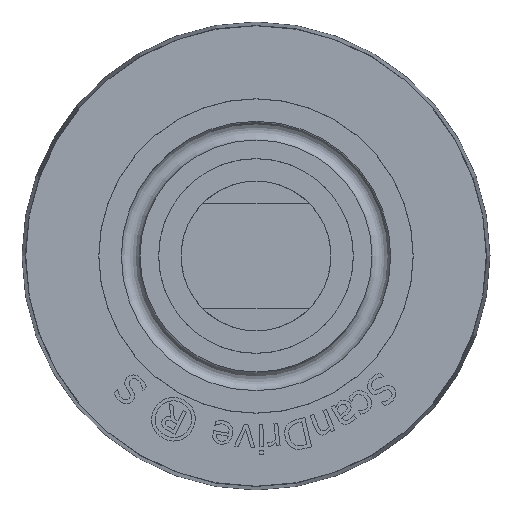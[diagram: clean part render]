
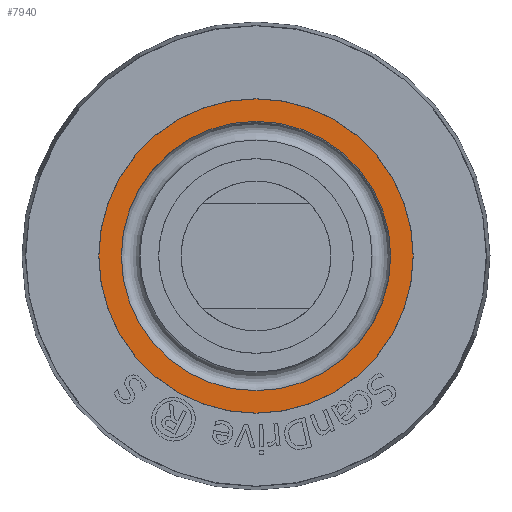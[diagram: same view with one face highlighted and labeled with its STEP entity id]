
A CAD part, left-side view. The second image highlights one B-rep face of the part: STEP entity #7940.
In plain terms, the highlighted planar face has unit normal (-1, 0, 0).
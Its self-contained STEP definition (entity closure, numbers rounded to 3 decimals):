
#60=CIRCLE('',#8324,17.99);
#61=CIRCLE('',#8326,20.99);
#151=FACE_BOUND('',#1490,.T.);
#1002=FACE_OUTER_BOUND('',#1489,.T.);
#1489=EDGE_LOOP('',(#6306));
#1490=EDGE_LOOP('',(#6307));
#3608=VERTEX_POINT('',#12298);
#3609=VERTEX_POINT('',#12301);
#4583=EDGE_CURVE('',#3608,#3608,#60,.T.);
#4584=EDGE_CURVE('',#3609,#3609,#61,.T.);
#6306=ORIENTED_EDGE('',*,*,#4584,.T.);
#6307=ORIENTED_EDGE('',*,*,#4583,.F.);
#7598=PLANE('',#8325);
#7940=ADVANCED_FACE('',(#1002,#151),#7598,.T.);
#8324=AXIS2_PLACEMENT_3D('',#12299,#9143,#9144);
#8325=AXIS2_PLACEMENT_3D('',#12300,#9145,#9146);
#8326=AXIS2_PLACEMENT_3D('',#12302,#9147,#9148);
#9143=DIRECTION('center_axis',(-1.,0.,0.));
#9144=DIRECTION('ref_axis',(0.,0.,1.));
#9145=DIRECTION('center_axis',(-1.,0.,0.));
#9146=DIRECTION('ref_axis',(0.,0.,1.));
#9147=DIRECTION('center_axis',(-1.,0.,0.));
#9148=DIRECTION('ref_axis',(0.,0.,1.));
#12298=CARTESIAN_POINT('',(-325.,0.,17.99));
#12299=CARTESIAN_POINT('Origin',(-325.,0.,0.));
#12300=CARTESIAN_POINT('Origin',(-325.,0.,17.99));
#12301=CARTESIAN_POINT('',(-325.,0.,20.99));
#12302=CARTESIAN_POINT('Origin',(-325.,0.,0.));
